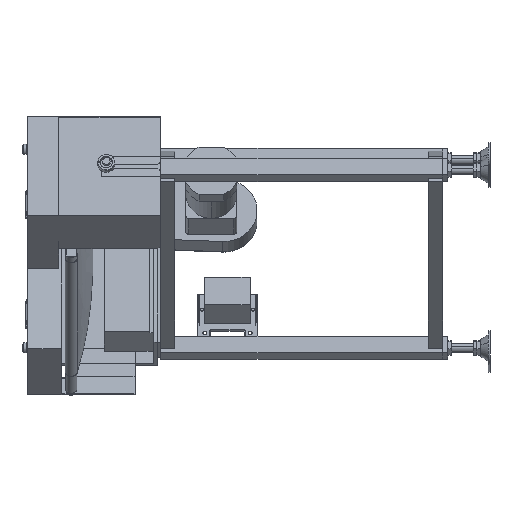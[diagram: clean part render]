
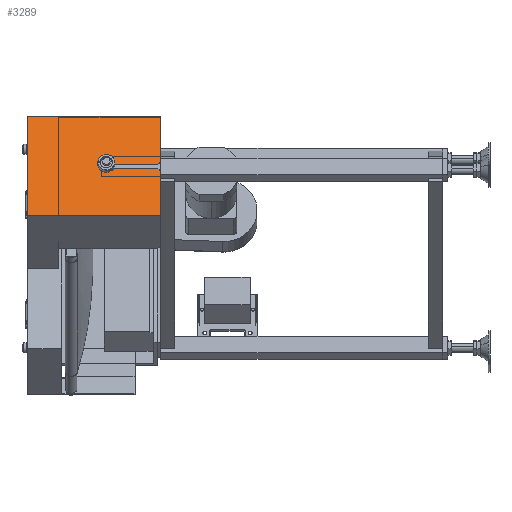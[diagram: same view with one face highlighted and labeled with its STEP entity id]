
A CAD part, left-side view. The second image highlights one B-rep face of the part: STEP entity #3289.
In plain terms, the highlighted planar face has unit normal (-0.924, 0, 0.383).
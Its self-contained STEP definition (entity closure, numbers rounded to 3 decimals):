
#3289=ADVANCED_FACE('',(#14480),#14479,.F.);
#14479=PLANE('',#22466);
#14480=FACE_OUTER_BOUND('',#22467,.T.);
#22463=CARTESIAN_POINT('',(171.536,-177.,-184.601));
#22464=DIRECTION('',(0.924,0.,-0.383));
#22465=DIRECTION('',(0.,1.,0.));
#22466=AXIS2_PLACEMENT_3D('',#22463,#22464,#22465);
#22467=EDGE_LOOP('',(#27600,#27601,#27602,#27603,#27604,#27605,#27606,#27607,#27608,#27609));
#27600=ORIENTED_EDGE('',*,*,#30203,.F.);
#27601=ORIENTED_EDGE('',*,*,#30210,.T.);
#27602=ORIENTED_EDGE('',*,*,#30211,.F.);
#27603=ORIENTED_EDGE('',*,*,#30212,.F.);
#27604=ORIENTED_EDGE('',*,*,#30213,.F.);
#27605=ORIENTED_EDGE('',*,*,#30214,.T.);
#27606=ORIENTED_EDGE('',*,*,#30188,.F.);
#27607=ORIENTED_EDGE('',*,*,#30209,.F.);
#27608=ORIENTED_EDGE('',*,*,#30204,.F.);
#27609=ORIENTED_EDGE('',*,*,#30196,.F.);
#30188=EDGE_CURVE('',#47033,#47034,#47035,.T.);
#30196=EDGE_CURVE('',#47082,#47089,#47090,.T.);
#30203=EDGE_CURVE('',#47130,#47082,#47137,.T.);
#30204=EDGE_CURVE('',#47089,#47143,#47144,.T.);
#30209=EDGE_CURVE('',#47143,#47033,#47175,.T.);
#30210=EDGE_CURVE('',#47130,#47181,#47182,.T.);
#30211=EDGE_CURVE('',#47188,#47181,#47189,.T.);
#30212=EDGE_CURVE('',#47195,#47188,#47196,.T.);
#30213=EDGE_CURVE('',#47202,#47195,#47203,.T.);
#30214=EDGE_CURVE('',#47202,#47034,#47209,.T.);
#47033=VERTEX_POINT('',#59559);
#47034=VERTEX_POINT('',#59560);
#47035=LINE('',#59561,#59562);
#47082=VERTEX_POINT('',#59587);
#47089=VERTEX_POINT('',#59591);
#47090=LINE('',#59592,#59593);
#47130=VERTEX_POINT('',#59614);
#47137=LINE('',#59618,#59619);
#47143=VERTEX_POINT('',#59621);
#47144=LINE('',#59622,#59623);
#47175=LINE('',#59639,#59640);
#47181=VERTEX_POINT('',#59642);
#47182=LINE('',#59643,#59644);
#47188=VERTEX_POINT('',#59646);
#47189=LINE('',#59647,#59648);
#47195=VERTEX_POINT('',#59650);
#47196=CIRCLE('',#59654,4.1);
#47202=VERTEX_POINT('',#59655);
#47203=LINE('',#59656,#59657);
#47209=LINE('',#59659,#59660);
#59559=CARTESIAN_POINT('',(248.,-167.,0.));
#59560=CARTESIAN_POINT('',(215.164,-167.,-79.274));
#59561=CARTESIAN_POINT('',(248.,-167.,0.));
#59562=VECTOR('',#59563,85.805);
#59563=DIRECTION('',(-0.383,0.,-0.924));
#59587=CARTESIAN_POINT('',(175.362,-167.,-175.362));
#59591=CARTESIAN_POINT('',(175.362,68.,-175.362));
#59592=CARTESIAN_POINT('',(175.362,-167.,-175.362));
#59593=VECTOR('',#59594,235.);
#59594=DIRECTION('',(0.,1.,0.));
#59614=CARTESIAN_POINT('',(208.199,-167.,-96.089));
#59618=CARTESIAN_POINT('',(208.199,-167.,-96.089));
#59619=VECTOR('',#59620,85.805);
#59620=DIRECTION('',(-0.383,0.,-0.924));
#59621=CARTESIAN_POINT('',(248.,68.,0.));
#59622=CARTESIAN_POINT('',(175.362,68.,-175.362));
#59623=VECTOR('',#59624,189.811);
#59624=DIRECTION('',(0.383,0.,0.924));
#59639=CARTESIAN_POINT('',(248.,68.,0.));
#59640=VECTOR('',#59641,235.);
#59641=DIRECTION('',(0.,-1.,0.));
#59642=CARTESIAN_POINT('',(210.112,-162.,-91.469));
#59643=CARTESIAN_POINT('',(208.199,-167.,-96.089));
#59644=VECTOR('',#59645,7.071);
#59645=DIRECTION('',(0.271,0.707,0.653));
#59646=CARTESIAN_POINT('',(210.112,-71.1,-91.469));
#59647=CARTESIAN_POINT('',(210.112,-71.1,-91.469));
#59648=VECTOR('',#59649,90.9);
#59649=DIRECTION('',(0.,-1.,0.));
#59650=CARTESIAN_POINT('',(213.25,-71.1,-83.893));
#59651=CARTESIAN_POINT('',(211.681,-71.1,-87.681));
#59652=DIRECTION('',(-0.924,0.,0.383));
#59653=DIRECTION('',(-0.383,0.,-0.924));
#59654=AXIS2_PLACEMENT_3D('',#59651,#59652,#59653);
#59655=CARTESIAN_POINT('',(213.25,-162.,-83.893));
#59656=CARTESIAN_POINT('',(213.25,-162.,-83.893));
#59657=VECTOR('',#59658,90.9);
#59658=DIRECTION('',(0.,1.,0.));
#59659=CARTESIAN_POINT('',(213.25,-162.,-83.893));
#59660=VECTOR('',#59661,7.071);
#59661=DIRECTION('',(0.271,-0.707,0.653));
